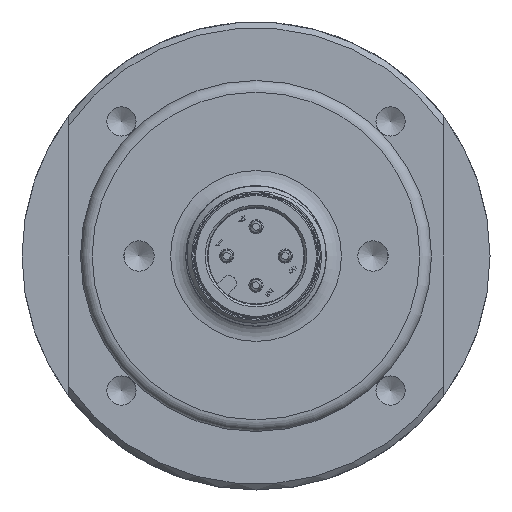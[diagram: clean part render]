
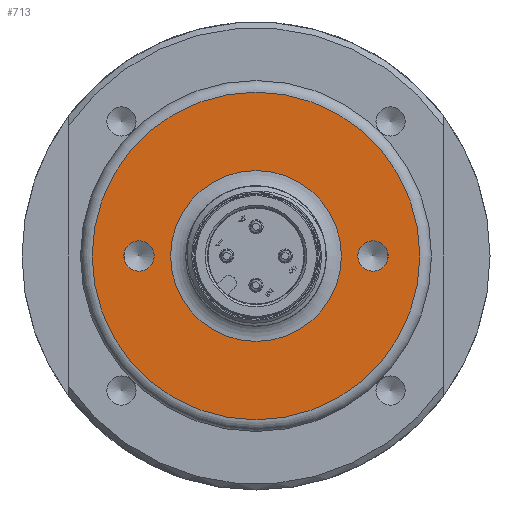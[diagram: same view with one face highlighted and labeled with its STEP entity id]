
A CAD part, front view. The second image highlights one B-rep face of the part: STEP entity #713.
In plain terms, the highlighted planar face has unit normal (0, -1, 0) as drawn and (0, 1, 0) by its records, which use the part's own axes.
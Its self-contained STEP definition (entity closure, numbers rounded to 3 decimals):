
#713 = ADVANCED_FACE( '', ( #1432, #1433, #1434, #1435 ), #1436, .T. );
#1432 = FACE_BOUND( '', #5046, .T. );
#1433 = FACE_OUTER_BOUND( '', #5047, .T. );
#1434 = FACE_BOUND( '', #5048, .T. );
#1435 = FACE_BOUND( '', #5049, .T. );
#1436 = PLANE( '', #5050 );
#5046 = EDGE_LOOP( '', ( #7600 ) );
#5047 = EDGE_LOOP( '', ( #7601 ) );
#5048 = EDGE_LOOP( '', ( #7602 ) );
#5049 = EDGE_LOOP( '', ( #7603 ) );
#5050 = AXIS2_PLACEMENT_3D( '', #7604, #7605, #7606 );
#7600 = ORIENTED_EDGE( '', *, *, #8455, .T. );
#7601 = ORIENTED_EDGE( '', *, *, #8524, .T. );
#7602 = ORIENTED_EDGE( '', *, *, #8866, .T. );
#7603 = ORIENTED_EDGE( '', *, *, #8414, .T. );
#7604 = CARTESIAN_POINT( '', ( -15., -2.104, 0. ) );
#7605 = DIRECTION( '', ( 0., 1., 0. ) );
#7606 = DIRECTION( '', ( -1., 0., 0. ) );
#8414 = EDGE_CURVE( '', #9040, #9040, #9041, .T. );
#8455 = EDGE_CURVE( '', #9112, #9112, #9113, .F. );
#8524 = EDGE_CURVE( '', #9234, #9234, #9235, .T. );
#8866 = EDGE_CURVE( '', #9745, #9745, #9746, .T. );
#9040 = VERTEX_POINT( '', #9952 );
#9041 = CIRCLE( '', #9953, 1.3 );
#9112 = VERTEX_POINT( '', #10458 );
#9113 = CIRCLE( '', #10459, 7.3 );
#9234 = VERTEX_POINT( '', #10819 );
#9235 = CIRCLE( '', #10820, 14. );
#9745 = VERTEX_POINT( '', #12984 );
#9746 = CIRCLE( '', #12985, 1.3 );
#9952 = CARTESIAN_POINT( '', ( -1.3, -2.104, 10. ) );
#9953 = AXIS2_PLACEMENT_3D( '', #14004, #14005, #14006 );
#10458 = CARTESIAN_POINT( '', ( -7.3, -2.104, 0. ) );
#10459 = AXIS2_PLACEMENT_3D( '', #14049, #14050, #14051 );
#10819 = CARTESIAN_POINT( '', ( -14., -2.104, 0. ) );
#10820 = AXIS2_PLACEMENT_3D( '', #14122, #14123, #14124 );
#12984 = CARTESIAN_POINT( '', ( -1.3, -2.104, -10. ) );
#12985 = AXIS2_PLACEMENT_3D( '', #14453, #14454, #14455 );
#14004 = CARTESIAN_POINT( '', ( 0., -2.104, 10. ) );
#14005 = DIRECTION( '', ( 0., -1., 0. ) );
#14006 = DIRECTION( '', ( -1., 0., 0. ) );
#14049 = CARTESIAN_POINT( '', ( 0., -2.104, 0. ) );
#14050 = DIRECTION( '', ( 0., 1., 0. ) );
#14051 = DIRECTION( '', ( -1., 0., 0. ) );
#14122 = CARTESIAN_POINT( '', ( 0., -2.104, 0. ) );
#14123 = DIRECTION( '', ( 0., 1., 0. ) );
#14124 = DIRECTION( '', ( -1., 0., 0. ) );
#14453 = CARTESIAN_POINT( '', ( 0., -2.104, -10. ) );
#14454 = DIRECTION( '', ( 0., -1., 0. ) );
#14455 = DIRECTION( '', ( -1., 0., 0. ) );
